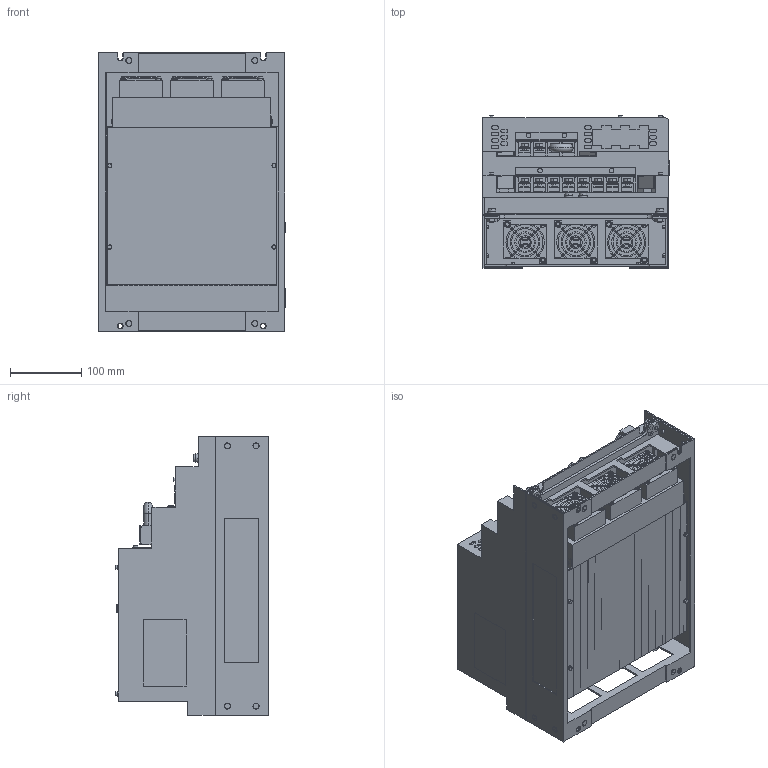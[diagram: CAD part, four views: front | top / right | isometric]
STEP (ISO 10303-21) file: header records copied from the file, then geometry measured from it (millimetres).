
FILE_DESCRIPTION((''),'2;1');
FILE_NAME('SGDXS-780A40A_ASM','2022-04-29T',('user237'),('Yaskawa Electric (Shenyang) Co.,Ltd'),'PRO/ENGINEER BY PARAMETRIC TECHNOLOGY CORPORATION, 2017170','PRO/ENGINEER BY PARAMETRIC TECHNOLOGY CORPORATION, 2017170','');
FILE_SCHEMA(('AUTOMOTIVE_DESIGN { 1 0 10303 214 1 1 1 1 }'));
Products named in the file (9): SGDXS-780A40A_BASE; SGDXS-780A40A_COVER1; SGDXS-780A40A_COVER2; SGDXS-780A40A_COVER3; SGDXS-780A40A_COVER4; SGDXS-780A40A_COVER5_AF0; SGDXS-780A40A_CONNECTOR1; SGDXS-780A40A_SHEET; SGDXS-780A40A_ASM
Assembly tree (8 placements, depth 2):
  SGDXS-780A40A_ASM
    SGDXS-780A40A_BASE
    SGDXS-780A40A_COVER1
    SGDXS-780A40A_COVER2
    SGDXS-780A40A_COVER3
    SGDXS-780A40A_COVER4
    SGDXS-780A40A_COVER5_AF0
    SGDXS-780A40A_CONNECTOR1
    SGDXS-780A40A_SHEET
Bounding box: 260.58 x 213.2 x 390 mm (x, y, z)
Volume: 12498465.3 mm3; surface area: 1630622.6 mm2
Topology: 24 solids, 24 shells, 3520 faces, 9603 edges, 6249 vertices
Faces by surface type: plane 2669, cylinder 651, torus 104, cone 64, bspline 32
Entity records: 141336 total; most frequent: CARTESIAN_POINT 23752, ORIENTED_EDGE 19206, DIRECTION 17911, EDGE_CURVE 9603, VECTOR 7847, LINE 7847, VERTEX_POINT 6249, AXIS2_PLACEMENT_3D 5032
